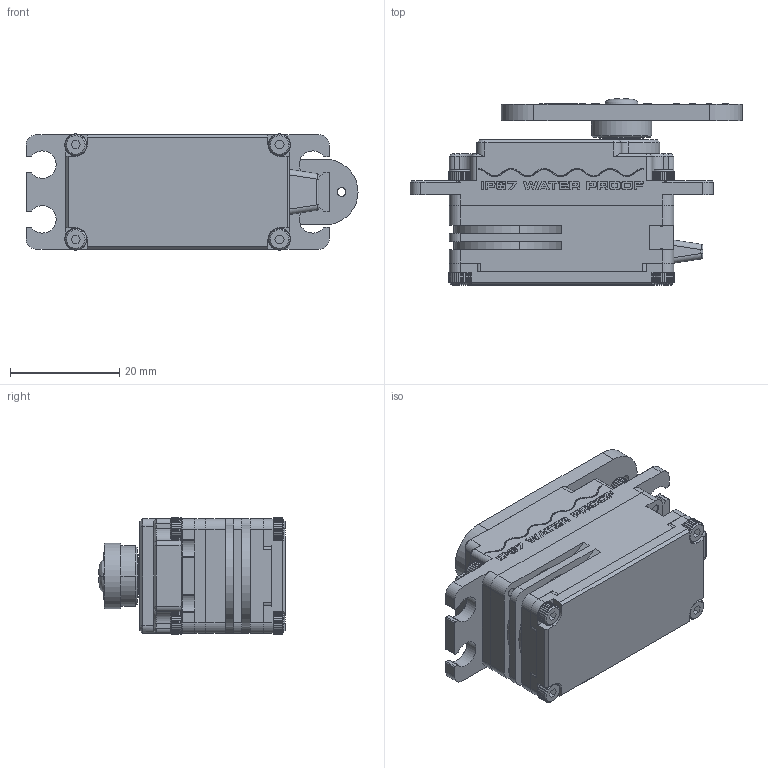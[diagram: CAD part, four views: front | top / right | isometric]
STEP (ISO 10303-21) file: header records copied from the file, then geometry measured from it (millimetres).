
FILE_DESCRIPTION((''),'2;1');
FILE_NAME('MDB777WP-CAN_MDB778WP-CAN_ASM','2023-08-29T',('hyojin.kil'),(''),'CREO PARAMETRIC BY PTC INC, 2016050','CREO PARAMETRIC BY PTC INC, 2016050','');
FILE_SCHEMA(('CONFIG_CONTROL_DESIGN'));
Products named in the file (13): DB777T-N_AL_120101010178; DB777M-N_AL_120101020161; DB777L-N_AL_120101030167; DB778SG5F-HP_120212000825; DB778SG5F-HP_120212000825_ASM; WP_3P_BUSHING_120105020030; 12XXX_SUS_HSH_M2XL8; HSH_M2XL4_SUS_12XXX; HD-IM25_PA66_120217000084; 120208000024_11X8X3_METAL_RING; TW_6_5X3_2_SUS_120204000048; CBH_M3XL5_SUS_120201000113; MDB777WP-CAN_MDB778WP-CAN_ASM
Assembly tree (18 placements, depth 3):
  MDB777WP-CAN_MDB778WP-CAN_ASM
    DB777T-N_AL_120101010178
    DB777M-N_AL_120101020161
    DB777L-N_AL_120101030167
    DB778SG5F-HP_120212000825_ASM
      DB778SG5F-HP_120212000825
    WP_3P_BUSHING_120105020030
    12XXX_SUS_HSH_M2XL8  x4
    HSH_M2XL4_SUS_12XXX  x4
    HD-IM25_PA66_120217000084
    120208000024_11X8X3_METAL_RING
    TW_6_5X3_2_SUS_120204000048
    CBH_M3XL5_SUS_120201000113
Bounding box: 60.65 x 34 x 21.21 mm (x, y, z)
Volume: 22796 mm3; surface area: 13687.4 mm2
Topology: 17 solids, 18 shells, 3609 faces, 10024 edges, 6581 vertices
Faces by surface type: plane 2146, cylinder 784, extrusion 317, cone 211, bspline 78, torus 73
Entity records: 122397 total; most frequent: CARTESIAN_POINT 28372, ORIENTED_EDGE 15288, DIRECTION 12832, PRESENTATION_STYLE_ASSIGNMENT 7757, STYLED_ITEM 7676, CURVE_STYLE 7644, EDGE_CURVE 7644, VECTOR 5648
